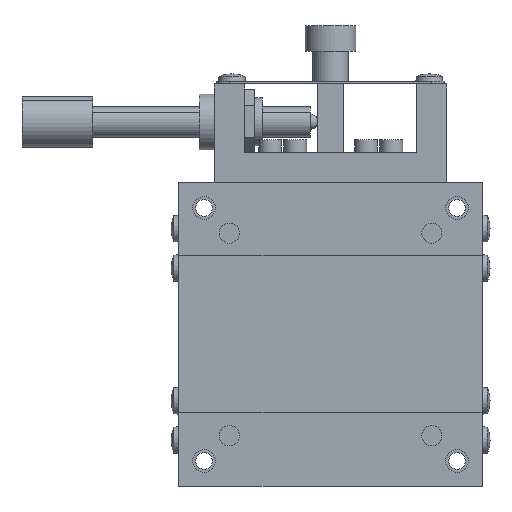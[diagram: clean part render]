
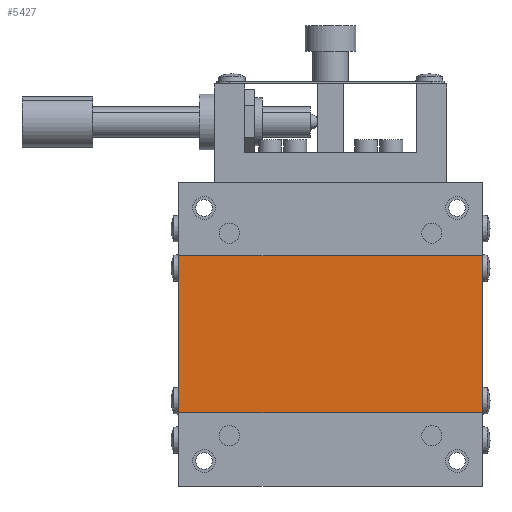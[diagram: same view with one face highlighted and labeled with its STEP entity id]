
A CAD part, front view. The second image highlights one B-rep face of the part: STEP entity #5427.
In plain terms, the highlighted planar face has unit normal (0, -1, 0).
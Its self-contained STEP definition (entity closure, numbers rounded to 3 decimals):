
#2001 = DIRECTION ( 'NONE',  ( 0., 0., 1. ) ) ;
#2002 = VECTOR ( 'NONE', #2001, 1000. ) ;
#2003 = CARTESIAN_POINT ( 'NONE',  ( 30., 0.3, 15.5 ) ) ;
#2004 = LINE ( 'NONE', #2003, #2002 ) ;
#2005 = DIRECTION ( 'NONE',  ( 1., 0., 0. ) ) ;
#2006 = VECTOR ( 'NONE', #2005, 1000. ) ;
#2007 = CARTESIAN_POINT ( 'NONE',  ( -30., 0.3, -15.5 ) ) ;
#2008 = LINE ( 'NONE', #2007, #2006 ) ;
#2022 = CARTESIAN_POINT ( 'NONE',  ( -30., 0.3, 15.5 ) ) ;
#2118 = CARTESIAN_POINT ( 'NONE',  ( 30., 0.3, -15.5 ) ) ;
#3729 = DIRECTION ( 'NONE',  ( 0., 0., -1. ) ) ;
#3730 = VECTOR ( 'NONE', #3729, 1000. ) ;
#3731 = CARTESIAN_POINT ( 'NONE',  ( -30., 0.3, 15.5 ) ) ;
#3732 = LINE ( 'NONE', #3731, #3730 ) ;
#3733 = DIRECTION ( 'NONE',  ( 0., 0., 1. ) ) ;
#3734 = DIRECTION ( 'NONE',  ( 0., 1., 0. ) ) ;
#3735 = CARTESIAN_POINT ( 'NONE',  ( 30., 0.3, 15.5 ) ) ;
#3736 = AXIS2_PLACEMENT_3D ( 'NONE', #3735, #3734, #3733 ) ;
#3737 = PLANE ( 'NONE',  #3736 ) ;
#3747 = FACE_OUTER_BOUND ( 'NONE', #5428, .T. ) ;
#3757 = CARTESIAN_POINT ( 'NONE',  ( -30., 0.3, -15.5 ) ) ;
#3764 = CARTESIAN_POINT ( 'NONE',  ( 30., 0.3, 15.5 ) ) ;
#3765 = DIRECTION ( 'NONE',  ( -1., 0., 0. ) ) ;
#3766 = VECTOR ( 'NONE', #3765, 1000. ) ;
#3767 = CARTESIAN_POINT ( 'NONE',  ( -30., 0.3, 15.5 ) ) ;
#3768 = LINE ( 'NONE', #3767, #3766 ) ;
#5360 = VERTEX_POINT ( 'NONE', #2118 ) ;
#5402 = VERTEX_POINT ( 'NONE', #2022 ) ;
#5408 = EDGE_CURVE ( 'NONE', #5432, #5360, #2008, .T. ) ;
#5409 = ORIENTED_EDGE ( 'NONE', *, *, #5410, .T. ) ;
#5410 = EDGE_CURVE ( 'NONE', #5360, #5424, #2004, .T. ) ;
#5423 = EDGE_CURVE ( 'NONE', #5424, #5402, #3768, .T. ) ;
#5424 = VERTEX_POINT ( 'NONE', #3764 ) ;
#5427 = ADVANCED_FACE ( 'NONE', ( #3747 ), #3737, .F. ) ;
#5428 = EDGE_LOOP ( 'NONE', ( #5429, #5430, #5433, #5409 ) ) ;
#5429 = ORIENTED_EDGE ( 'NONE', *, *, #5423, .T. ) ;
#5430 = ORIENTED_EDGE ( 'NONE', *, *, #5431, .T. ) ;
#5431 = EDGE_CURVE ( 'NONE', #5402, #5432, #3732, .T. ) ;
#5432 = VERTEX_POINT ( 'NONE', #3757 ) ;
#5433 = ORIENTED_EDGE ( 'NONE', *, *, #5408, .T. ) ;
